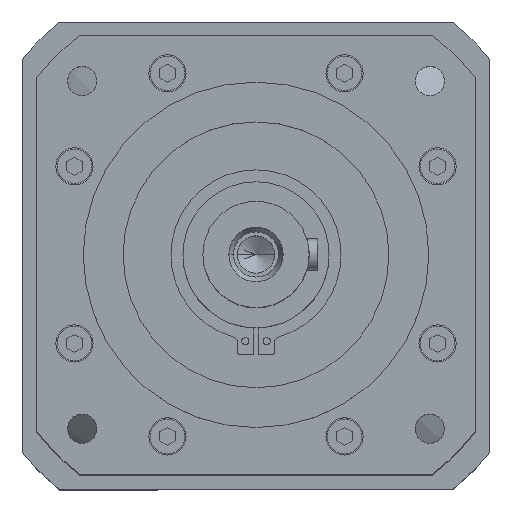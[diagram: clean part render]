
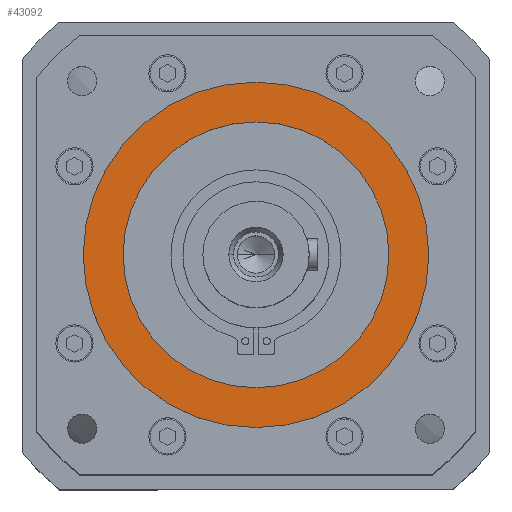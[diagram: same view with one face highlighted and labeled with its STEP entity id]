
A CAD part, top view. The second image highlights one B-rep face of the part: STEP entity #43092.
In plain terms, the highlighted planar face has unit normal (0, 0, 1).
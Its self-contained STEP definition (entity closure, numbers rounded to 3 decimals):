
#1031 = EDGE_CURVE ( 'NONE', #13537, #32125, #8443, .T. ) ;
#1936 = CARTESIAN_POINT ( 'NONE',  ( 0., 50., 0. ) ) ;
#5765 = PLANE ( 'NONE',  #20574 ) ;
#6117 = CARTESIAN_POINT ( 'NONE',  ( -50., 0., 0. ) ) ;
#6639 = CARTESIAN_POINT ( 'NONE',  ( 65., 0., 0. ) ) ;
#6762 = DIRECTION ( 'NONE',  ( 1., 0., 0. ) ) ;
#6870 = DIRECTION ( 'NONE',  ( 0., 0., 1. ) ) ;
#6923 = CARTESIAN_POINT ( 'NONE',  ( 0., 0., 0. ) ) ;
#7610 = EDGE_CURVE ( 'NONE', #12227, #33650, #45213, .T. ) ;
#8443 = CIRCLE ( 'NONE', #40180, 65. ) ;
#9489 = DIRECTION ( 'NONE',  ( 0., 0., -1. ) ) ;
#9678 = ORIENTED_EDGE ( 'NONE', *, *, #7610, .F. ) ;
#12168 = CARTESIAN_POINT ( 'NONE',  ( 0., 0., 0. ) ) ;
#12227 = VERTEX_POINT ( 'NONE', #6117 ) ;
#12355 = ORIENTED_EDGE ( 'NONE', *, *, #1031, .F. ) ;
#13537 = VERTEX_POINT ( 'NONE', #46067 ) ;
#15941 = DIRECTION ( 'NONE',  ( 1., 0., 0. ) ) ;
#20574 = AXIS2_PLACEMENT_3D ( 'NONE', #1936, #9489, #35277 ) ;
#21200 = DIRECTION ( 'NONE',  ( 0., 0., 1. ) ) ;
#23809 = FACE_OUTER_BOUND ( 'NONE', #28754, .T. ) ;
#27045 = ORIENTED_EDGE ( 'NONE', *, *, #31418, .F. ) ;
#28629 = DIRECTION ( 'NONE',  ( 1., 0., 0. ) ) ;
#28754 = EDGE_LOOP ( 'NONE', ( #27045, #12355 ) ) ;
#28776 = DIRECTION ( 'NONE',  ( 0., 0., -1. ) ) ;
#28936 = CARTESIAN_POINT ( 'NONE',  ( 0., 0., 0. ) ) ;
#29772 = CIRCLE ( 'NONE', #47657, 65. ) ;
#31418 = EDGE_CURVE ( 'NONE', #32125, #13537, #29772, .T. ) ;
#32125 = VERTEX_POINT ( 'NONE', #6639 ) ;
#33592 = FACE_BOUND ( 'NONE', #42607, .T. ) ;
#33650 = VERTEX_POINT ( 'NONE', #47042 ) ;
#35277 = DIRECTION ( 'NONE',  ( -1., 0., 0. ) ) ;
#37946 = DIRECTION ( 'NONE',  ( 0., 0., -1. ) ) ;
#39796 = AXIS2_PLACEMENT_3D ( 'NONE', #6923, #6870, #6762 ) ;
#40093 = EDGE_CURVE ( 'NONE', #33650, #12227, #40127, .T. ) ;
#40127 = CIRCLE ( 'NONE', #42952, 50. ) ;
#40180 = AXIS2_PLACEMENT_3D ( 'NONE', #28936, #28776, #28629 ) ;
#42607 = EDGE_LOOP ( 'NONE', ( #43506, #9678 ) ) ;
#42952 = AXIS2_PLACEMENT_3D ( 'NONE', #43161, #21200, #46854 ) ;
#43092 = ADVANCED_FACE ( 'NONE', ( #33592, #23809 ), #5765, .F. ) ;
#43161 = CARTESIAN_POINT ( 'NONE',  ( 0., 0., 0. ) ) ;
#43506 = ORIENTED_EDGE ( 'NONE', *, *, #40093, .F. ) ;
#45213 = CIRCLE ( 'NONE', #39796, 50. ) ;
#46067 = CARTESIAN_POINT ( 'NONE',  ( -65., 0., 0. ) ) ;
#46854 = DIRECTION ( 'NONE',  ( 1., 0., 0. ) ) ;
#47042 = CARTESIAN_POINT ( 'NONE',  ( 50., 0., 0. ) ) ;
#47657 = AXIS2_PLACEMENT_3D ( 'NONE', #12168, #37946, #15941 ) ;
